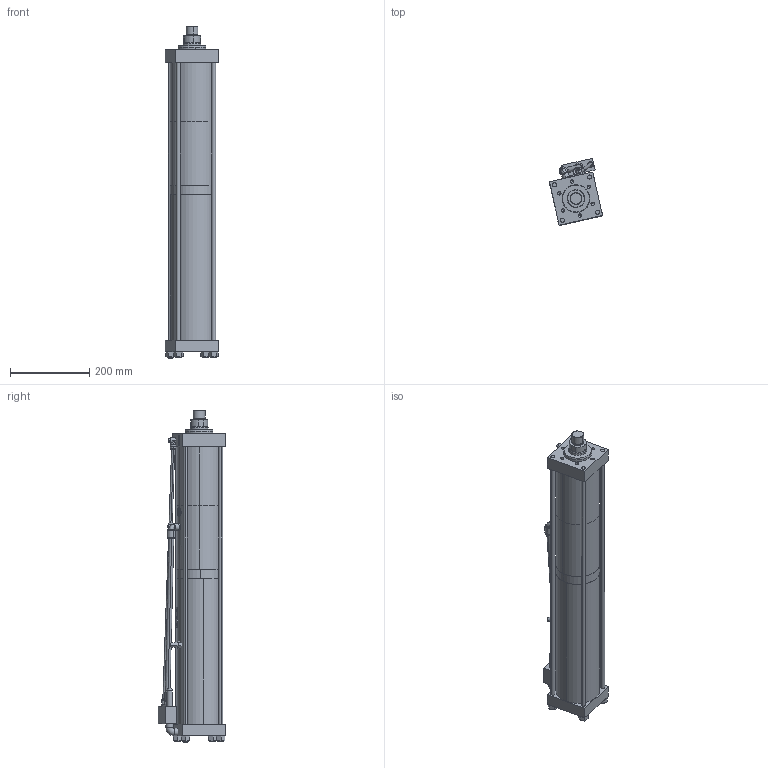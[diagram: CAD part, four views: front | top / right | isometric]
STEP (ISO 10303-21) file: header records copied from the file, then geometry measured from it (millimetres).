
FILE_DESCRIPTION (( 'STEP AP214' ), '1' );
FILE_NAME ('BS08-100-06S.STEP', '2025-10-08T03:12:18', ( 'Ranlm' ), ( '' ), 'SwSTEP 2.0', 'SolidWorks 2022', '' );
FILE_SCHEMA (( 'AUTOMOTIVE_DESIGN' ));
Length unit declared in the file: millimetre
Products named in the file (1): BS08-100-06S
Bounding box: 133.86 x 169.54 x 836.5 mm (x, y, z)
Volume: 7964303.7 mm3; surface area: 590250.4 mm2
Topology: 26 solids, 26 shells, 512 faces, 1120 edges, 688 vertices
Faces by surface type: plane 220, cylinder 174, cone 68, torus 38, bspline 10, sphere 2
Entity records: 21035 total; most frequent: CARTESIAN_POINT 3732, DIRECTION 2537, ORIENTED_EDGE 2184, EDGE_CURVE 1092, AXIS2_PLACEMENT_3D 991, VERTEX_POINT 686, EDGE_LOOP 588, VECTOR 555
